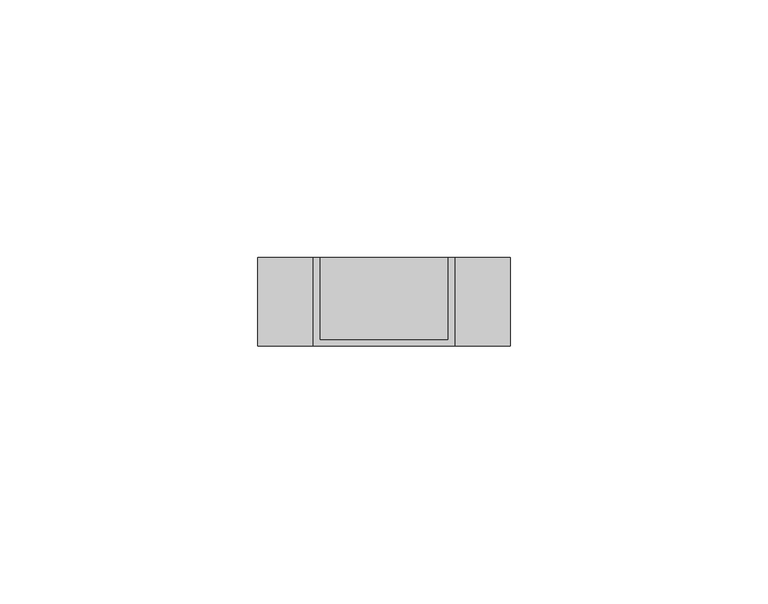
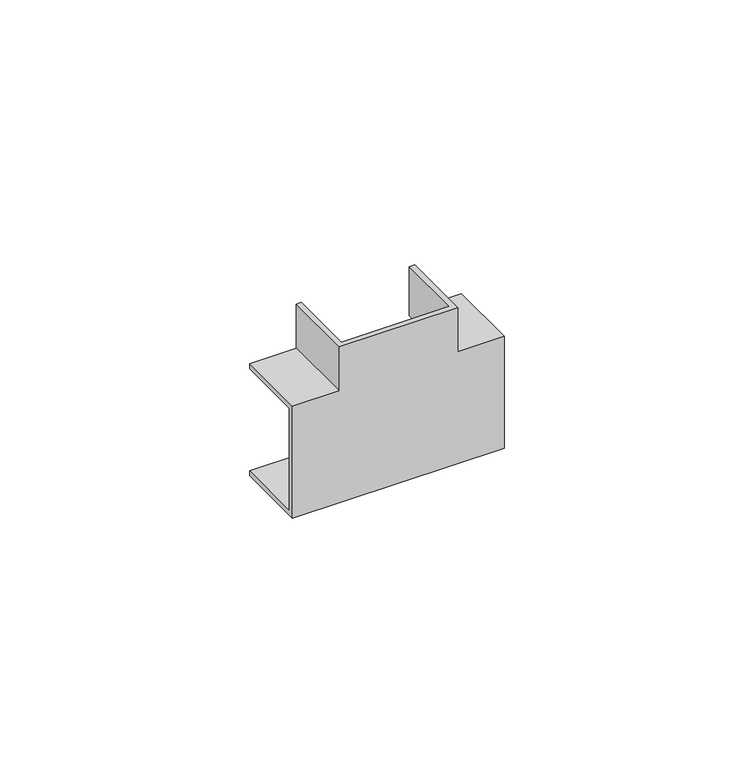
"""IFC4 building model written with IfcOpenShell, lengths in millimetres: proxy geometry, Угол_Т-образный КМТ : Угол Т-образный КМТ 25х16."""

from ifc_helpers import new_model, si_unit, origin, place, context, project, spatial, faceted_brep, source, transform, mapped, element, save


def generic_models_53e93ef7(model_context):
    return source(origin(), model_context, "Body", "Brep", [
        faceted_brep([(-13.7, -17.2, 13.7), (-24.5, -17.2, 13.7), (-24.5, -17.2, -13.7), (24.5, -17.2, -13.7), (24.5, -17.2, 13.7), (13.7, -17.2, 13.7), (13.7, -17.2, 24.5), (-13.7, -17.2, 24.5), (-13.7, 0.0, 13.7), (-13.7, 0.0, 24.5), (-12.5, 0.0, 24.5), (-12.5, 0.0, 12.5), (-24.5, 0.0, 12.5), (-24.5, 0.0, 13.7), (13.7, 0.0, 24.5), (13.7, 0.0, 13.7), (24.5, 0.0, 13.7), (24.5, 0.0, 12.5), (12.5, 0.0, 12.5), (12.5, 0.0, 24.5), (24.5, 0.0, -13.7), (-24.5, 0.0, -13.7), (-24.5, 0.0, -12.5), (-12.5, 0.0, -12.5), (12.5, 0.0, -12.5), (24.5, 0.0, -12.5), (-24.5, -16.0, 12.5), (-24.5, -16.0, -12.5), (24.5, -16.0, -12.5), (24.5, -16.0, 12.5), (12.5, -16.0, 24.5), (-12.5, -16.0, 24.5), (-12.5, -16.0, 12.5), (12.5, -16.0, 12.5)], [[[0, 1, 2, 3, 4, 5, 6, 7]], [[8, 9, 10, 11, 12, 13]], [[14, 15, 16, 17, 18, 19]], [[20, 21, 22, 23, 24, 25]], [[1, 0, 8, 13]], [[2, 1, 13, 12, 26, 27, 22, 21]], [[3, 2, 21, 20]], [[4, 3, 20, 25, 28, 29, 17, 16]], [[5, 4, 16, 15]], [[6, 5, 15, 14]], [[7, 6, 14, 19, 30, 31, 10, 9]], [[0, 7, 9, 8]], [[27, 26, 32, 31, 30, 33, 29, 28]], [[22, 27, 28, 25, 24, 23]], [[26, 12, 11, 32]], [[17, 29, 33, 18]], [[33, 30, 19, 18]], [[31, 32, 11, 10]]]),
    ])


if __name__ == "__main__":
    model = new_model("IFC4")
    model_context = context("Model", 3, world=origin())
    ifc_project = project(units=[si_unit("LENGTHUNIT", "METRE", prefix="MILLI")], contexts=[model_context])
    site = spatial("IfcSite", under=ifc_project)
    building = spatial("IfcBuilding", under=site)
    placement = place(None, origin())
    generic_models_shape = generic_models_53e93ef7(model_context)
    element("IfcBuildingElementProxy", 1, Name="Угол_Т-образный КМТ : Угол Т-образный КМТ 25х16", ObjectType="Угол_Т-образный КМТ : Угол Т-образный КМТ 25х16", at=placement, inside=building, context=model_context, shape_type="MappedRepresentation", body=[
        mapped(generic_models_shape, transform((0.0, 0.0, 0.0), x_axis=(1.0, 0.0, 0.0), y_axis=(0.0, 1.0, 0.0), z_axis=(0.0, 0.0, 1.0))),
    ])
    save(model, "model.ifc")
